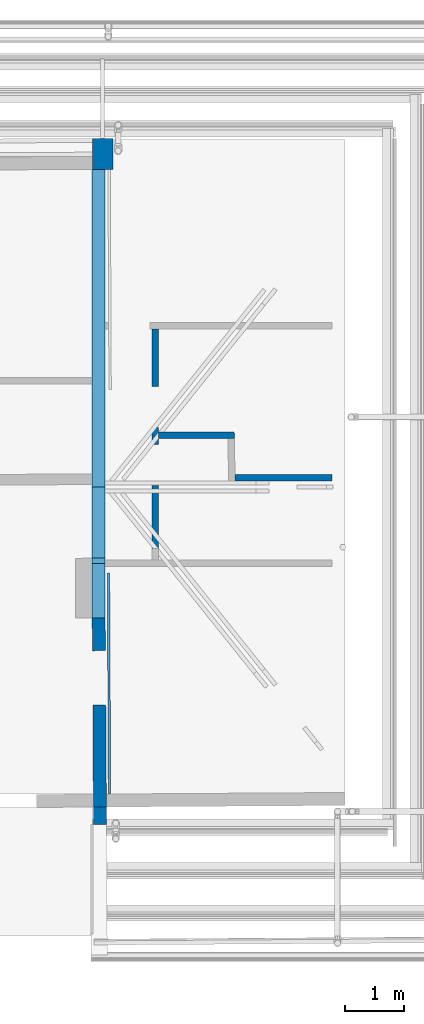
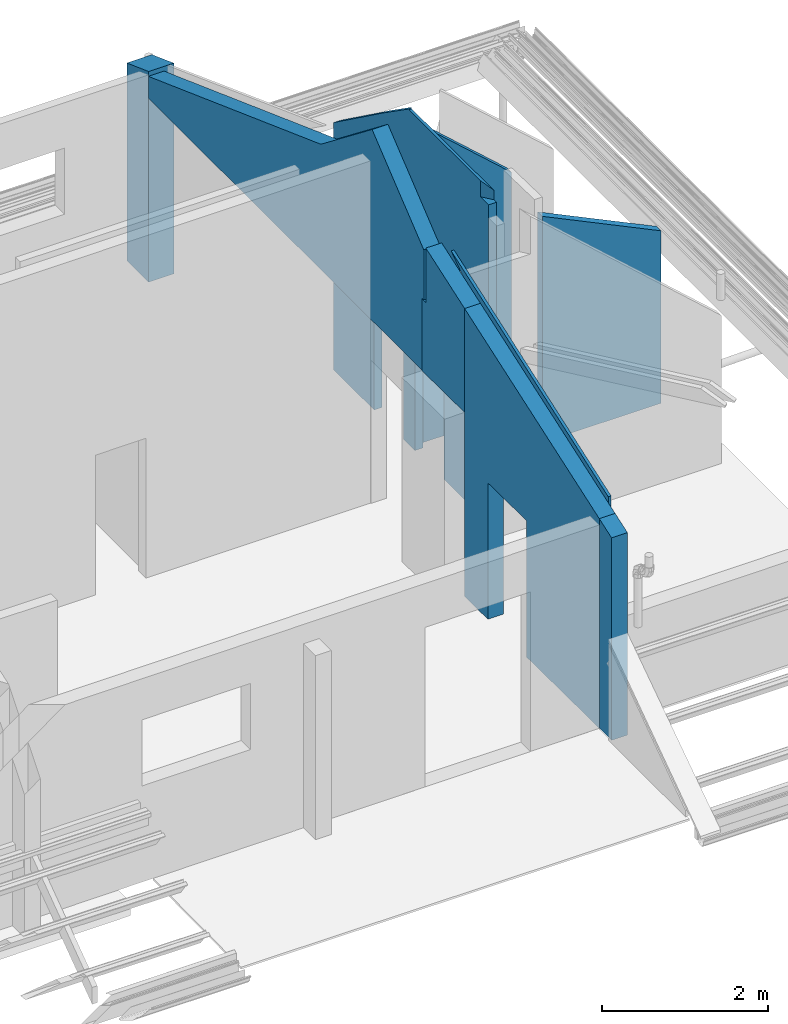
# One storey, part 9 of 15: 9 walls.
"""IFC2X3 building model written with IfcOpenShell, lengths in centimetres."""

from ifc_helpers import new_model, entity, si_unit, converted_unit, direction, frame, origin, place, context, subcontext, project, spatial, faceted_brep, material, layer, layer_set, type_object, element, save


model = new_model("IFC2X3")

# Units and contexts
model_context = context("Model", 3, precision=0.001, world=frame((0.0, 0.0, 13090.0)), true_north=direction((6.123233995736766e-17, 1.0)))
body_context = subcontext(model_context, "Body", "Model", "MODEL_VIEW")
ifc_project = project(units=[si_unit("LENGTHUNIT", "METRE", prefix="CENTI"), si_unit("AREAUNIT", "SQUARE_METRE"), si_unit("VOLUMEUNIT", "CUBIC_METRE"), converted_unit("PLANEANGLEUNIT", "DEGREE", entity("IfcPlaneAngleMeasure", 0.017453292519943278), si_unit("PLANEANGLEUNIT", "RADIAN"), dimensions=[0, 0, 0, 0, 0, 0, 0])], contexts=[model_context])

# Site, building, storey
site_placement = place(None, origin())
site = spatial("IfcSite", under=ifc_project, at=site_placement, Name="Default", CompositionType="ELEMENT")
building_placement = place(site_placement, origin())
building = spatial("IfcBuilding", under=site, at=building_placement, Name="e 39 logements et 22 maisons relais", CompositionType="ELEMENT")
storey_placement = place(building_placement, frame((0.0, 0.0, 340.0)))
storey = spatial("IfcBuildingStorey", under=building, at=storey_placement, Name="R+1", CompositionType="ELEMENT", Elevation=339.99999999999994)

# Walls
ifc_material_1 = material(Name="Béton - Béton coulé sur place")
ifc_layer_1 = layer(ifc_material_1, 22.0)
ifc_layer_set_1 = layer_set([ifc_layer_1], Name="Mur de base:BA - 22cm")
wall_type_1 = type_object("IfcWallType", Name="Mur de base:BA - 22cm", PredefinedType="STANDARD", material=ifc_layer_set_1)
wall_1_placement = place(storey_placement, frame((596.7902604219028, -244.85512536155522, 0.0), z_axis=(0.0, 0.0, 1.0), x_axis=(0.006557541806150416, -0.9999784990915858, 0.0)))
element("IfcWall", 1, at=wall_1_placement, inside=storey, type_object=wall_type_1, Name="Mur de base:BA - 22cm", ObjectType="Mur de base:BA - 22cm", context=body_context, shape_type="Brep", body=[
    faceted_brep([(320.06601305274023, -11.0, 0.0), (298.20037784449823, -11.0, 0.0), (298.06601230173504, -11.0, 0.0), (147.324925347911, -11.0, 0.0), (147.32492534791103, 11.0, 0.0), (298.20037784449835, 11.0, 0.0), (320.06026464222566, 11.0, 0.0), (55.324925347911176, -11.0, 0.0), (0.0, -11.0, 0.0), (0.0, 11.0, 0.0), (55.32492534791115, 11.0, 0.0), (0.0, -11.0, 270.0), (55.324925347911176, -11.0, 200.0), (147.324925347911, -11.0, 200.0), (320.0660130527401, -11.0, 2.0), (320.0660130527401, -11.0, 298.27462213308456), (320.0660130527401, -11.0, 307.46194762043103), (284.50284300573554, -11.0, 320.23018148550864), (248.93974194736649, -11.0, 332.99861166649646), (213.3767111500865, -11.0, 345.76723759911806), (177.8137505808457, -11.0, 358.5360591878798), (142.25086020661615, -11.0, 371.3050763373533), (106.68803999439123, -11.0, 384.0742889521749), (71.12528991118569, -11.0, 396.84369693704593), (35.56260992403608, -11.0, 409.61330019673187), (0.0, -11.0, 422.383098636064), (320.06026464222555, 11.0, 2.0), (147.32492534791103, 11.0, 200.0), (55.32492534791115, 11.0, 200.0), (0.0, 11.0, 270.0), (0.0, 11.0, 422.35383047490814), (35.56197010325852, 11.0, 409.58952746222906), (71.12400948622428, 11.0, 396.82542166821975), (106.68611949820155, 11.0, 384.06151271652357), (142.24830017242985, 11.0, 371.29780070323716), (177.8105515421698, 11.0, 358.5342857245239), (213.37287364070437, 11.0, 345.77096787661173), (248.93526650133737, 11.0, 333.0078472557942), (284.49773015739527, 11.0, 320.24492395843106), (320.06026464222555, 11.0, 307.4821980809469), (0.0, -3.6666667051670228, 422.37334635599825), (0.0, 3.6666666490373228, 422.3635903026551), (320.0640969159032, -3.666666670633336, 307.4686983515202), (320.06218077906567, 3.666666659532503, 307.4754485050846)], [[[0, 1, 2, 3, 4, 5, 6]], [[7, 8, 9, 10]], [[11, 8, 7, 12, 13, 3, 2, 1, 0, 14, 15, 16, 17, 18, 19, 20, 21, 22, 23, 24, 25]], [[26, 6, 5, 4, 27, 28, 10, 9, 29, 30, 31, 32, 33, 34, 35, 36, 37, 38, 39]], [[25, 40, 41, 30, 29, 9, 8, 11]], [[13, 27, 4, 3]], [[7, 10, 28, 12]], [[13, 12, 28, 27]], [[19, 35, 20]], [[18, 36, 19]], [[17, 16, 42]], [[17, 42, 18]], [[34, 21, 20]], [[40, 25, 24]], [[40, 24, 23]], [[32, 23, 22]], [[21, 33, 22]], [[23, 41, 40]], [[42, 37, 18]], [[36, 35, 19]], [[18, 37, 36]], [[35, 34, 20]], [[38, 37, 43]], [[39, 38, 43]], [[41, 31, 30]], [[31, 41, 32]], [[32, 41, 23]], [[32, 22, 33]], [[34, 33, 21]], [[37, 42, 43]], [[14, 0, 6, 26, 39, 43, 42, 16, 15]]]),
])
wall_2_placement = place(storey_placement, frame((599.0812044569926, -594.207801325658, 0.0), z_axis=(0.0, 0.0, 1.0), x_axis=(-0.006557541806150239, 0.9999784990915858, 0.0)))
element("IfcWall", 2, at=wall_2_placement, inside=storey, type_object=wall_type_1, Name="Mur de base:BA - 22cm", ObjectType="Mur de base:BA - 22cm", context=body_context, shape_type="Brep", body=[
    faceted_brep([(29.15980968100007, -11.0, 0.0), (29.299922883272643, -11.0, 0.0), (29.299922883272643, -11.0, 307.482198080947), (21.97494630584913, -11.0, 304.85342921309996), (14.649967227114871, -11.0, 302.2246689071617), (7.324985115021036, -11.0, 299.59591697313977), (0.0, -11.0, 296.96717342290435), (0.0, -11.0, 140.37043607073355), (0.0, -11.0, 2.0), (0.0, -11.0, 0.0), (29.294174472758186, 11.0, 0.0), (29.15980968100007, 11.0, 0.0), (0.0, 11.0, 0.0), (0.0, 11.0, 2.0), (0.0, 11.0, 140.37043607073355), (0.0, 11.0, 296.94463542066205), (7.323547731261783, 11.0, 299.57395087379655), (14.647092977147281, 11.0, 302.20327481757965), (21.970635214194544, 11.0, 304.8326070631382), (29.294174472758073, 11.0, 307.4619476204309), (0.0, -3.6666666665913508, 296.9596608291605), (0.0, 3.6666666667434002, 296.95214816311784), (13.698217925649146, 0.012112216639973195, 301.87284668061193), (29.296090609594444, 3.6666666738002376, 307.4686983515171), (29.298006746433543, -3.6666666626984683, 307.47544850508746)], [[[0, 1, 2, 3, 4, 5, 6, 7, 8, 9]], [[10, 11, 12, 13, 14, 15, 16, 17, 18, 19]], [[0, 9, 12, 11, 10, 1]], [[6, 20, 21, 15, 14, 13, 12, 9, 8, 7]], [[16, 15, 21]], [[21, 22, 16]], [[19, 18, 23]], [[22, 18, 17]], [[18, 22, 23]], [[16, 22, 17]], [[20, 6, 5]], [[20, 22, 21]], [[5, 4, 22]], [[22, 4, 3]], [[2, 24, 3]], [[3, 24, 22]], [[24, 23, 22]], [[20, 5, 22]], [[23, 24, 2, 1, 10, 19]]]),
])
wall_3_placement = place(storey_placement, frame((596.6901005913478, 515.1138826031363, 270.0), z_axis=(0.0, 0.0, 1.0), x_axis=(0.0, -1.0, 0.0)))
element("IfcWall", 3, at=wall_3_placement, inside=storey, type_object=wall_type_1, Name="Mur de base:BA - 22cm", ObjectType="Mur de base:BA - 22cm", context=body_context, shape_type="Brep", body=[
    faceted_brep([(0.08543239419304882, -11.0, 0.0), (662.0228299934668, -11.0, 0.0), (662.0228299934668, -11.0, 179.1091128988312), (537.8047046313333, -11.0, 280.30629512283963), (414.69992194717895, -11.0, 184.0), (0.08543239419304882, -11.0, 32.22146335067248), (0.0, 11.0, 0.0), (0.0, 11.0, 32.19018898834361), (414.69992194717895, 11.0, 184.0), (537.8047046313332, 11.0, 280.30629512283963), (662.0228299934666, 11.0, 179.1091128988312), (662.0228299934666, 11.0, 0.0)], [[[0, 1, 2, 3, 4, 5]], [[6, 7, 8, 9, 10, 11]], [[0, 5, 7, 6]], [[1, 0, 6, 11]], [[2, 1, 11, 10]], [[3, 2, 10, 9]], [[4, 3, 9, 8]], [[5, 4, 8, 7]]]),
])
wall_4_placement = place(storey_placement, frame((596.1246699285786, -143.35730770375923, 270.0), z_axis=(0.0, 0.0, 1.0), x_axis=(0.006557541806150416, -0.9999784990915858, 0.0)))
element("IfcWall", 4, at=wall_4_placement, inside=storey, type_object=wall_type_1, Name="Mur de base:BA - 22cm", ObjectType="Mur de base:BA - 22cm", context=body_context, shape_type="Brep", body=[
    faceted_brep([(0.0, -11.0, 0.0), (101.49999999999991, -11.0, 0.0), (101.50000000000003, -11.0, 152.3830986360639), (91.25930127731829, -11.0, 156.060362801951), (81.01860566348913, -11.0, 159.73764411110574), (70.77791853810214, -11.0, 163.41494062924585), (60.537235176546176, -11.0, 167.0922540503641), (50.29655879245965, -11.0, 170.76958321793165), (40.05588772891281, -11.0, 174.4469287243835), (29.815222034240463, -11.0, 178.12429054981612), (19.574563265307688, -11.0, 181.80166813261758), (9.333908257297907, -11.0, 185.4790626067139), (9.333908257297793, -11.0, 105.71727203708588), (0.0, -11.0, 105.71727203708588), (101.49999999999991, 11.0, 152.35383047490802), (101.49999999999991, 11.0, 0.0), (0.0, 11.0, 0.0), (0.0, 11.0, 105.71727203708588), (9.478177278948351, 11.0, 105.71727203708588), (9.478177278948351, 11.0, 185.3843700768), (19.702802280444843, 11.0, 181.71424466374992), (29.92743051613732, 11.0, 178.04413641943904), (40.152067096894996, 11.0, 174.37404351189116), (50.3767074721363, 11.0, 170.7039675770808), (60.60135498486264, 11.0, 167.0339074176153), (70.82600773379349, 11.0, 163.36386371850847), (81.05066595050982, 11.0, 159.69383639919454), (91.27533107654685, 11.0, 156.02382494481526), (101.49999999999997, 3.6666666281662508, 152.36359030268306), (101.49999999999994, -3.666666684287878, 152.3733463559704), (9.38199793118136, -3.666666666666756, 185.44749843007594), (9.430087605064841, 3.6666666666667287, 185.41593425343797), (53.24825336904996, -0.03738513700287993, 169.69151766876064)], [[[0, 1, 2, 3, 4, 5, 6, 7, 8, 9, 10, 11, 12, 13]], [[14, 15, 16, 17, 18, 19, 20, 21, 22, 23, 24, 25, 26, 27]], [[1, 0, 16, 15]], [[2, 1, 15, 14, 28, 29]], [[0, 13, 17, 16]], [[13, 12, 18, 17]], [[18, 12, 11, 30, 31, 19]], [[5, 4, 32]], [[32, 4, 29]], [[3, 2, 29]], [[3, 29, 4]], [[32, 7, 6]], [[30, 11, 10]], [[30, 10, 9]], [[7, 32, 8]], [[8, 32, 30]], [[8, 30, 9]], [[28, 32, 29]], [[25, 24, 32]], [[25, 28, 26]], [[23, 32, 24]], [[6, 5, 32]], [[27, 26, 28]], [[14, 27, 28]], [[32, 23, 22]], [[31, 20, 19]], [[20, 31, 21]], [[21, 31, 32]], [[21, 32, 22]], [[31, 30, 32]], [[25, 32, 28]]]),
])
ifc_layer_2 = layer(ifc_material_1, 11.0)
ifc_layer_set_2 = layer_set([ifc_layer_2], Name="Mur de base:cloison 11cm")
wall_type_2 = type_object("IfcWallType", Name="Mur de base:cloison 11cm", PredefinedType="STANDARD", material=ifc_layer_set_2)
wall_5_placement = place(storey_placement, frame((697.9144376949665, 64.72163734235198, 0.0)))
element("IfcWall", 5, at=wall_5_placement, inside=storey, type_object=wall_type_2, Name="Mur de base:cloison 11cm", ObjectType="Mur de base:cloison 11cm", context=body_context, shape_type="Brep", body=[
    faceted_brep([(0.0, -5.500000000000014, 0.0), (117.70597264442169, -5.500000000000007, 0.0), (128.70774884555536, -5.500000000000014, 0.0), (128.70774884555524, -5.500000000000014, 353.4419152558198), (0.0, -5.500000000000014, 468.8457904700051), (0.0, 5.499999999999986, 0.0), (0.0, 5.499999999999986, 468.8457904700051), (128.5100632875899, 5.499999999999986, 353.61916705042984), (128.5100632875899, 5.499999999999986, 0.0)], [[[0, 1, 2, 3, 4]], [[5, 6, 7, 8]], [[0, 4, 6, 5]], [[3, 2, 8, 7]], [[2, 1, 0, 5, 8]], [[4, 3, 7, 6]]]),
])
wall_6_placement = place(storey_placement, frame((827.7116054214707, -6.897903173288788, 0.0)))
element("IfcWall", 6, at=wall_6_placement, inside=storey, type_object=wall_type_2, Name="Mur de base:cloison 11cm", ObjectType="Mur de base:cloison 11cm", context=body_context, shape_type="Brep", body=[
    faceted_brep([(0.1976855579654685, -5.5, 0.0), (164.69504608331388, -5.500000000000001, 0.0), (164.69504608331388, -5.500000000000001, 253.06674553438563), (0.1976855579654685, -5.5, 331.847175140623), (0.0, 5.5, 0.0), (0.0, 5.5, 331.94184993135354), (164.69504608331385, 5.5, 253.06674553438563), (164.69504608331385, 5.5, 0.0)], [[[0, 1, 2, 3]], [[4, 5, 6, 7]], [[0, 3, 5, 4]], [[2, 1, 7, 6]], [[1, 0, 4, 7]], [[3, 2, 6, 5]]]),
])
wall_7_placement = place(storey_placement, frame((692.4144376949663, -127.40894739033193, 0.0), z_axis=(0.0, 0.0, 1.0), x_axis=(0.0, 1.0, 0.0)))
element("IfcWall", 7, at=wall_7_placement, inside=storey, type_object=wall_type_2, Name="Mur de base:cloison 11cm", ObjectType="Mur de base:cloison 11cm", context=body_context, shape_type="Brep", body=[
    faceted_brep([(205.1000000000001, -5.499999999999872, 0.0), (197.63058473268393, -5.4999999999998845, 0.0), (186.63058473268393, -5.499999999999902, 0.0), (177.0, -5.499999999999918, 0.0), (177.0, 5.500000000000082, 0.0), (205.10000000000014, 5.500000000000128, 0.0), (372.6240266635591, -5.499999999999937, 0.0), (275.1000000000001, -5.49999999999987, 0.0), (275.10000000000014, 5.50000000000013, 0.0), (372.62402666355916, 5.500000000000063, 0.0), (107.0, -5.49999999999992, 0.0), (0.0, -5.499999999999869, 0.0), (0.0, 5.500000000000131, 0.0), (107.0, 5.50000000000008, 0.0), (107.0, -5.49999999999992, 205.0), (177.0, -5.499999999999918, 205.0), (205.1000000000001, -5.499999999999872, 205.0), (275.1, -5.49999999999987, 205.0), (372.6240266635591, -5.499999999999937, 362.4638087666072), (359.51486148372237, -5.499999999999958, 371.9570234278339), (346.40696755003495, -5.49999999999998, 381.45196592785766), (333.3005337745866, -5.499999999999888, 390.948926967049), (320.1958091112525, -5.499999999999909, 400.44825087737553), (307.0931024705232, -5.499999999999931, 409.9503648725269), (293.9928019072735, -5.499999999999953, 419.45580552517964), (280.8954016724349, -5.499999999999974, 428.96525606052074), (267.80154115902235, -5.499999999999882, 438.47959998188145), (260.10216911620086, -5.499999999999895, 444.0796015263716), (254.71206231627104, -5.499999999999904, 448.0), (204.25878945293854, -5.499999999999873, 483.35230677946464), (204.25878945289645, -5.499999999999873, 481.2210341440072), (6.052367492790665, -5.499999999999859, 481.60833072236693), (6.0523674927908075, -5.499999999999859, 467.7307162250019), (0.0, -5.499999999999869, 467.7307162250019), (0.0, -5.499999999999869, 448.72677737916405), (372.624026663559, 5.500000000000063, 362.51027428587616), (275.10000000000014, 5.50000000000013, 205.0), (205.10000000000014, 5.500000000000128, 205.0), (177.0, 5.500000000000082, 205.0), (107.0, 5.50000000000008, 205.0), (0.0, 5.500000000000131, 448.72677737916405), (0.0, 5.500000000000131, 467.7307162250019), (19.79712607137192, 5.50000000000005, 467.7307162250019), (19.79712607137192, 5.50000000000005, 491.4664780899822), (190.63413453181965, 5.500000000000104, 491.132661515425), (190.63413453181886, 5.500000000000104, 492.8990210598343), (254.71206231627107, 5.500000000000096, 448.0), (267.80296562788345, 5.500000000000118, 438.48676841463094), (280.89774602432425, 5.500000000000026, 428.9788365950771), (293.99563252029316, 5.500000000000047, 419.4752051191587), (307.0960640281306, 5.500000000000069, 409.9750970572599), (320.1986068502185, 5.500000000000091, 400.47791173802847), (333.3029204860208, 5.500000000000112, 390.9831775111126), (346.4087338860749, 5.50000000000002, 381.49051891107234), (359.5158286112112, 5.500000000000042, 371.9996333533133), (372.6240266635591, 0.0, 362.4870415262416), (254.7120623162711, -2.0998370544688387, 448.0), (254.71206231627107, 0.0, 448.0)], [[[0, 1, 2, 3, 4, 5]], [[6, 7, 8, 9]], [[10, 11, 12, 13]], [[11, 10, 14, 15, 3, 2, 1, 0, 16, 17, 7, 6, 18, 19, 20, 21, 22, 23, 24, 25, 26, 27, 28, 29, 30, 31, 32, 33, 34]], [[35, 9, 8, 36, 37, 5, 4, 38, 39, 13, 12, 40, 41, 42, 43, 44, 45, 46, 47, 48, 49, 50, 51, 52, 53, 54]], [[34, 33, 41, 40, 12, 11]], [[55, 18, 6, 9, 35]], [[33, 32, 42, 41]], [[17, 16, 37, 36]], [[39, 38, 15, 14]], [[16, 0, 5, 37]], [[7, 17, 36, 8]], [[38, 4, 3, 15]], [[13, 39, 14, 10]], [[43, 42, 32, 31]], [[44, 30, 29, 45]], [[18, 55, 35, 54]], [[18, 54, 19]], [[19, 54, 53]], [[53, 20, 19]], [[20, 53, 52]], [[20, 52, 21]], [[21, 51, 22]], [[51, 21, 52]], [[22, 51, 50]], [[50, 23, 22]], [[23, 50, 49]], [[49, 48, 24]], [[24, 48, 25]], [[49, 24, 23]], [[56, 28, 27, 26, 46, 57]], [[26, 25, 46]], [[47, 25, 48]], [[46, 25, 47]], [[30, 44, 43, 31]], [[45, 29, 28, 56, 57, 46]]]),
])
ifc_layer_3 = layer(ifc_material_1, 35.0)
ifc_layer_set_3 = layer_set([ifc_layer_3], Name="Mur de base:BA - 35")
wall_type_3 = type_object("IfcWallType", Name="Mur de base:BA - 35", PredefinedType="STANDARD", material=ifc_layer_set_3)
wall_8_placement = place(storey_placement, frame((603.465004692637, 567.2656829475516, 0.0), z_axis=(0.0, 0.0, 1.0), x_axis=(0.004412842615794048, -0.999990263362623, 0.0)))
element("IfcWall", 8, at=wall_8_placement, inside=storey, type_object=wall_type_3, Name="Mur de base:BA - 35", ObjectType="Mur de base:BA - 35", context=body_context, shape_type="Brep", body=[
    faceted_brep([(0.0, -17.50000000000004, 290.0229829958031), (0.0, -17.50000000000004, 0.0), (30.158550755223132, -17.50000000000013, 0.0), (52.15855384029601, -17.500000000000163, 0.0), (52.15855384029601, -17.500000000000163, 304.33386055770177), (52.15855384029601, -17.500000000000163, 309.09875300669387), (45.63873356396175, -17.500000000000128, 306.7142846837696), (39.1189135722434, -17.500000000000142, 304.3298155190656), (32.599093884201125, -17.50000000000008, 301.9453455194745), (26.079274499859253, -17.500000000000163, 299.5608746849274), (19.559455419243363, -17.500000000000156, 297.1764030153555), (13.039636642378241, -17.50000000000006, 294.79193051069), (6.519818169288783, -17.5000000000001, 292.40745717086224), (52.17708934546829, 17.499999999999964, 0.0), (0.0, 17.499999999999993, 0.0), (0.0, 17.499999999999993, 289.9702349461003), (6.522135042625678, 17.499999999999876, 292.35683653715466), (13.044270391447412, 17.499999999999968, 294.74343722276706), (19.566406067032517, 17.499999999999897, 297.13003701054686), (26.088542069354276, 17.499999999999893, 299.5166359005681), (32.61067839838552, 17.499999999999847, 301.90323389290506), (39.132815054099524, 17.499999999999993, 304.2898309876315), (45.65495203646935, 17.49999999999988, 306.6764271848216), (52.17708934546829, 17.499999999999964, 309.06302248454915), (52.169937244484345, 3.9949170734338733, 0.0), (0.0, -10.499999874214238, 290.01243823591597), (0.0, -3.49999988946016, 290.00189105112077), (0.0, 3.50000008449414, 289.99134144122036), (0.0, 10.500000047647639, 289.9807894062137), (52.16596804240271, -3.49999992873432, 309.0844671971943), (52.16226094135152, -10.499999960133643, 309.091611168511), (52.17338224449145, 10.500000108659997, 309.07017285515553), (52.16967514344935, 3.5000000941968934, 309.0773210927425), (25.586376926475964, -0.0019484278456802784, 299.3567558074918)], [[[0, 1, 2, 3, 4, 5, 6, 7, 8, 9, 10, 11, 12]], [[13, 14, 15, 16, 17, 18, 19, 20, 21, 22, 23]], [[2, 1, 14, 13, 24, 3]], [[0, 25, 26, 27, 28, 15, 14, 1]], [[29, 30, 5, 4, 3, 24, 13, 23, 31, 32]], [[6, 30, 7]], [[30, 6, 5]], [[29, 33, 7]], [[29, 7, 30]], [[33, 8, 7]], [[33, 11, 10]], [[10, 9, 33]], [[0, 12, 25]], [[25, 12, 11]], [[33, 25, 11]], [[26, 25, 33]], [[29, 32, 33]], [[31, 23, 22]], [[31, 21, 33]], [[20, 33, 21]], [[22, 21, 31]], [[20, 19, 33]], [[27, 33, 28]], [[26, 33, 27]], [[33, 18, 17]], [[28, 33, 17]], [[33, 19, 18]], [[16, 15, 28]], [[9, 8, 33]], [[17, 16, 28]], [[33, 32, 31]]]),
])
ifc_material_2 = material(Name="tole")
wall_type_4 = type_object("IfcWallType", Name="Murs 3:Murs 3", PredefinedType="NOTDEFINED", material=ifc_material_2)
wall_9_placement = place(storey_placement, frame((611.4076526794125, -542.8708492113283, 185.90544407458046), z_axis=(0.0, 0.0, 1.0), x_axis=(0.0, 1.0, 0.0)))
element("IfcWall", 9, at=wall_9_placement, inside=storey, type_object=wall_type_4, material=ifc_material_2, Name="Murs 3:Murs 3", ObjectType="Murs 3:Murs 3", context=body_context, shape_type="Brep", body=[
    faceted_brep([(0.0182871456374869, -5.712914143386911, 0.0), (374.6941558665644, -3.9999581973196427, 265.5514108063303), (0.0182871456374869, -5.712914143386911, 131.3864178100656), (0.0, -1.7129559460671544, 0.0), (0.0, -1.7129559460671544, 131.3864178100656), (374.6758687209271, 0.0, 265.5514108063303)], [[[0, 1, 2]], [[3, 4, 5]], [[1, 0, 3, 5]], [[2, 1, 5, 4]], [[0, 2, 4, 3]]]),
])

save(model, "model.ifc")
